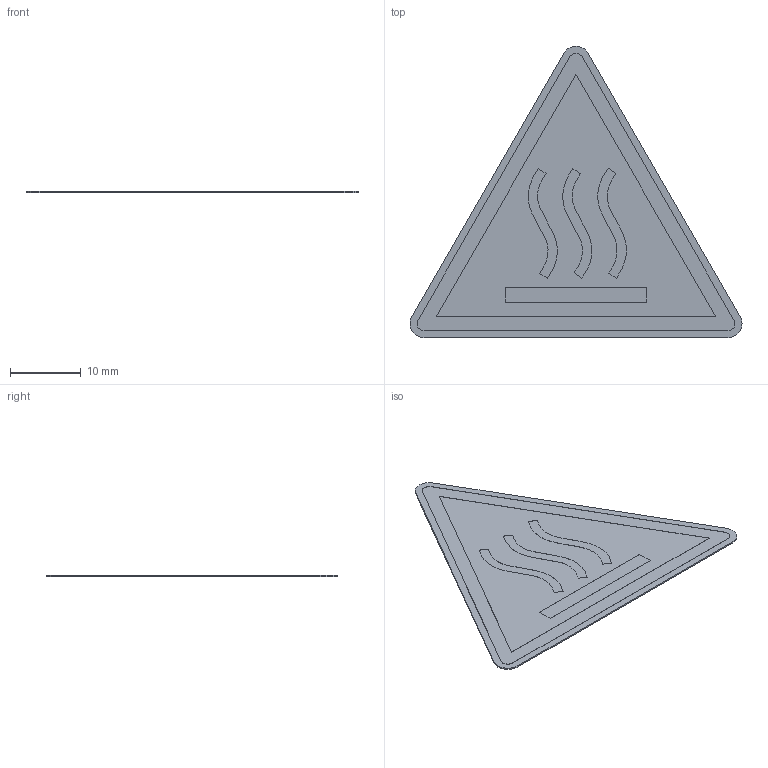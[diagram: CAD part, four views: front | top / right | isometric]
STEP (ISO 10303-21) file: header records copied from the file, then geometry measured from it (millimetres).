
FILE_DESCRIPTION (( 'STEP AP214' ), '1' );
FILE_NAME ('W017_Warnung vor heißer Oberfläche.STEP', '2022-02-22T08:17:25', ( '' ), ( '' ), 'SwSTEP 2.0', 'SolidWorks 2021', '' );
FILE_SCHEMA (( 'AUTOMOTIVE_DESIGN' ));
Length unit declared in the file: millimetre
Products named in the file (1): W017_Warnung vor heißer Oberfläche
Bounding box: 47.07 x 41.3 x 0.22 mm (x, y, z)
Volume: 221 mm3; surface area: 2183.6 mm2
Topology: 1 solids, 1 shells, 41 faces, 99 edges, 66 vertices
Faces by surface type: plane 27, cylinder 8, bspline 6
Entity records: 1792 total; most frequent: CARTESIAN_POINT 477, ORIENTED_EDGE 198, DIRECTION 175, EDGE_CURVE 99, VECTOR 71, LINE 71, VERTEX_POINT 66, AXIS2_PLACEMENT_3D 52
